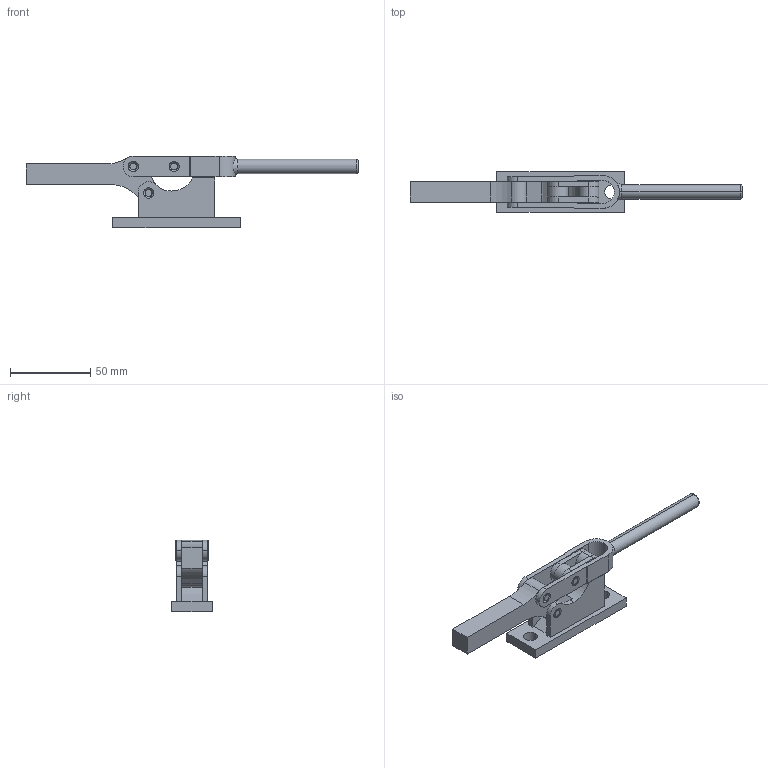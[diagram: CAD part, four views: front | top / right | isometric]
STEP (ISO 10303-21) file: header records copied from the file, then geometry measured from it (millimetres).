
FILE_DESCRIPTION( ( '' ), '1' );
FILE_NAME( 'C:\Documents and Settings\Richard Grenzke\My Documents\Wolverine Company Data\WOLVERINE CD 5_17_05\SOLIDS STEP\hold_down\c305a.stp', ' ', ( '' ), ( '' ), 'ACIS Interop R16', 'Kubotek KeyCreator V5.5.1 (0454)', ' ' );
FILE_SCHEMA( ( 'CONFIG_CONTROL_DESIGN' ) );
Length unit declared in the file: inch
Products named in the file (11): 1; 2; 3; 4; 5; 6; 7; 8; 9; 10; 11
Bounding box: 206.38 x 25.4 x 44.46 mm (x, y, z)
Volume: 56385.8 mm3; surface area: 26478.3 mm2
Topology: 10 solids, 10 shells, 150 faces, 406 edges, 276 vertices
Faces by surface type: cylinder 71, plane 59, cone 18, torus 2
Entity records: 5431 total; most frequent: DIRECTION 926, CARTESIAN_POINT 895, ORIENTED_EDGE 812, EDGE_CURVE 406, AXIS2_PLACEMENT_3D 363, VERTEX_POINT 276, CIRCLE 202, LINE 200
